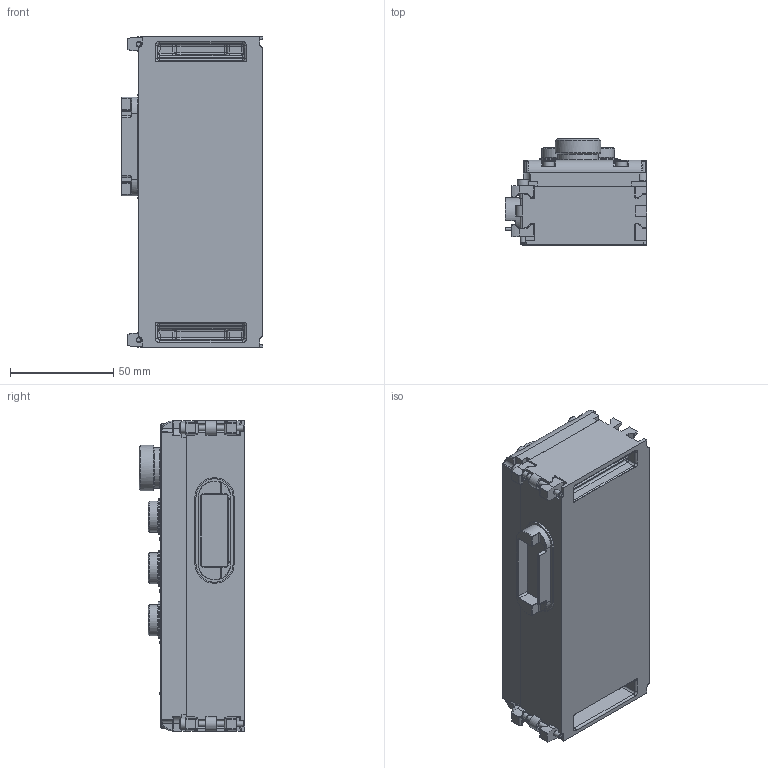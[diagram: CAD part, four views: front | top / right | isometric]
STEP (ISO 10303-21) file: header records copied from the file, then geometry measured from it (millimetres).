
FILE_DESCRIPTION (( 'STEP AP214' ), '1' );
FILE_NAME ('MIO67A-PP-xx-01.STEP', '2019-07-10T16:34:50', ( 'user' ), ( '' ), 'SwSTEP 2.0', 'SolidWorks 2014', '' );
FILE_SCHEMA (( 'AUTOMOTIVE_DESIGN' ));
Length unit declared in the file: millimetre
Products named in the file (1): MIO67A-PP-xx-01
Bounding box: 68.6 x 51.2 x 150 mm (x, y, z)
Volume: 345893.1 mm3; surface area: 82089.4 mm2
Topology: 34 solids, 34 shells, 1631 faces, 4370 edges, 3040 vertices
Faces by surface type: plane 657, cylinder 451, cone 212, torus 156, bspline 118, sphere 37
Full cylindrical faces by diameter (mm): 2 x5, 2.3 x5, 2.4 x14, 2.6 x4, 3 x2, 3.325 x14, 3.5 x14, 4.65 x4, 4.7 x2, 5.5 x8, 11.035 x6, 12.2 x6, 14.3 x6, 14.5 x6, 15.1 x6, 17.5 x6, 17.95 x1, 18.15 x1, 19.8 x1, 21.275 x1, 22.067 x1, 23 x1
Entity records: 72515 total; most frequent: CARTESIAN_POINT 16695, ORIENTED_EDGE 7542, DIRECTION 7353, EDGE_CURVE 3771, VERTEX_POINT 2859, AXIS2_PLACEMENT_3D 2809, EDGE_LOOP 2320, FACE_OUTER_BOUND 1817
